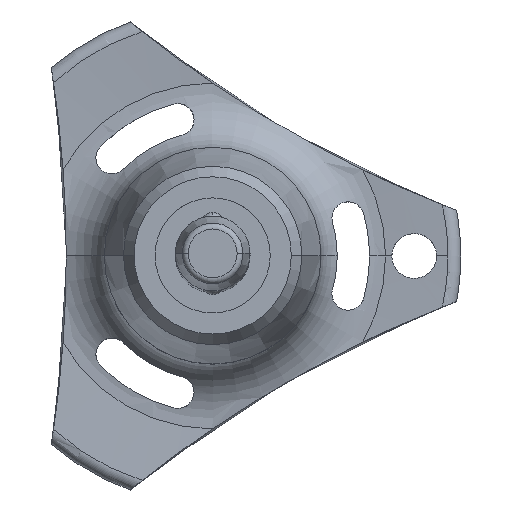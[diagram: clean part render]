
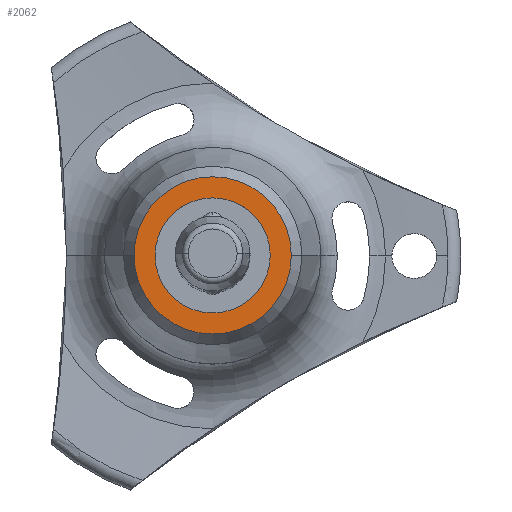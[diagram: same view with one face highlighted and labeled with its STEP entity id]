
A CAD part, top view. The second image highlights one B-rep face of the part: STEP entity #2062.
In plain terms, the highlighted planar face has unit normal (0, 0, 1).
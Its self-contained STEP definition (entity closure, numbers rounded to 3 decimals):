
#125 = EDGE_CURVE ( 'NONE', #1445, #1869, #1848, .T. ) ;
#172 = DIRECTION ( 'NONE',  ( 0., 0., -1. ) ) ;
#199 = DIRECTION ( 'NONE',  ( -1., 0., 0. ) ) ;
#276 = AXIS2_PLACEMENT_3D ( 'NONE', #2082, #616, #199 ) ;
#365 = EDGE_LOOP ( 'NONE', ( #1301, #879 ) ) ;
#375 = CIRCLE ( 'NONE', #457, 3.852 ) ;
#377 = CIRCLE ( 'NONE', #276, 5.262 ) ;
#430 = CARTESIAN_POINT ( 'NONE',  ( 5.262, 0., -70.4 ) ) ;
#457 = AXIS2_PLACEMENT_3D ( 'NONE', #1799, #2639, #1818 ) ;
#616 = DIRECTION ( 'NONE',  ( 0., 0., -1. ) ) ;
#660 = FACE_BOUND ( 'NONE', #2336, .T. ) ;
#878 = ORIENTED_EDGE ( 'NONE', *, *, #1691, .T. ) ;
#879 = ORIENTED_EDGE ( 'NONE', *, *, #125, .F. ) ;
#997 = CARTESIAN_POINT ( 'NONE',  ( 3.852, 0., -70.4 ) ) ;
#1013 = DIRECTION ( 'NONE',  ( -1., 0., 0. ) ) ;
#1060 = CARTESIAN_POINT ( 'NONE',  ( 0., 3.852, -70.4 ) ) ;
#1101 = CIRCLE ( 'NONE', #2149, 3.852 ) ;
#1205 = CARTESIAN_POINT ( 'NONE',  ( -3.852, 0., -70.4 ) ) ;
#1243 = CARTESIAN_POINT ( 'NONE',  ( -5.262, 0., -70.4 ) ) ;
#1272 = DIRECTION ( 'NONE',  ( 0., 0., 1. ) ) ;
#1301 = ORIENTED_EDGE ( 'NONE', *, *, #1787, .F. ) ;
#1418 = VERTEX_POINT ( 'NONE', #997 ) ;
#1424 = EDGE_CURVE ( 'NONE', #1418, #2630, #1101, .T. ) ;
#1445 = VERTEX_POINT ( 'NONE', #430 ) ;
#1479 = PLANE ( 'NONE',  #1972 ) ;
#1568 = DIRECTION ( 'NONE',  ( -1., 0., 0. ) ) ;
#1691 = EDGE_CURVE ( 'NONE', #2630, #1418, #375, .T. ) ;
#1787 = EDGE_CURVE ( 'NONE', #1869, #1445, #377, .T. ) ;
#1799 = CARTESIAN_POINT ( 'NONE',  ( 0., 0., -70.4 ) ) ;
#1818 = DIRECTION ( 'NONE',  ( -1., 0., 0. ) ) ;
#1827 = CARTESIAN_POINT ( 'NONE',  ( 0., 0., -70.4 ) ) ;
#1848 = CIRCLE ( 'NONE', #2353, 5.262 ) ;
#1869 = VERTEX_POINT ( 'NONE', #1243 ) ;
#1972 = AXIS2_PLACEMENT_3D ( 'NONE', #1060, #1272, #2360 ) ;
#2062 = ADVANCED_FACE ( 'NONE', ( #660, #2296 ), #1479, .T. ) ;
#2082 = CARTESIAN_POINT ( 'NONE',  ( 0., 0., -70.4 ) ) ;
#2149 = AXIS2_PLACEMENT_3D ( 'NONE', #2623, #172, #1013 ) ;
#2164 = ORIENTED_EDGE ( 'NONE', *, *, #1424, .T. ) ;
#2296 = FACE_OUTER_BOUND ( 'NONE', #365, .T. ) ;
#2336 = EDGE_LOOP ( 'NONE', ( #878, #2164 ) ) ;
#2353 = AXIS2_PLACEMENT_3D ( 'NONE', #1827, #2421, #1568 ) ;
#2360 = DIRECTION ( 'NONE',  ( 1., 0., 0. ) ) ;
#2421 = DIRECTION ( 'NONE',  ( 0., 0., -1. ) ) ;
#2623 = CARTESIAN_POINT ( 'NONE',  ( 0., 0., -70.4 ) ) ;
#2630 = VERTEX_POINT ( 'NONE', #1205 ) ;
#2639 = DIRECTION ( 'NONE',  ( 0., 0., -1. ) ) ;
